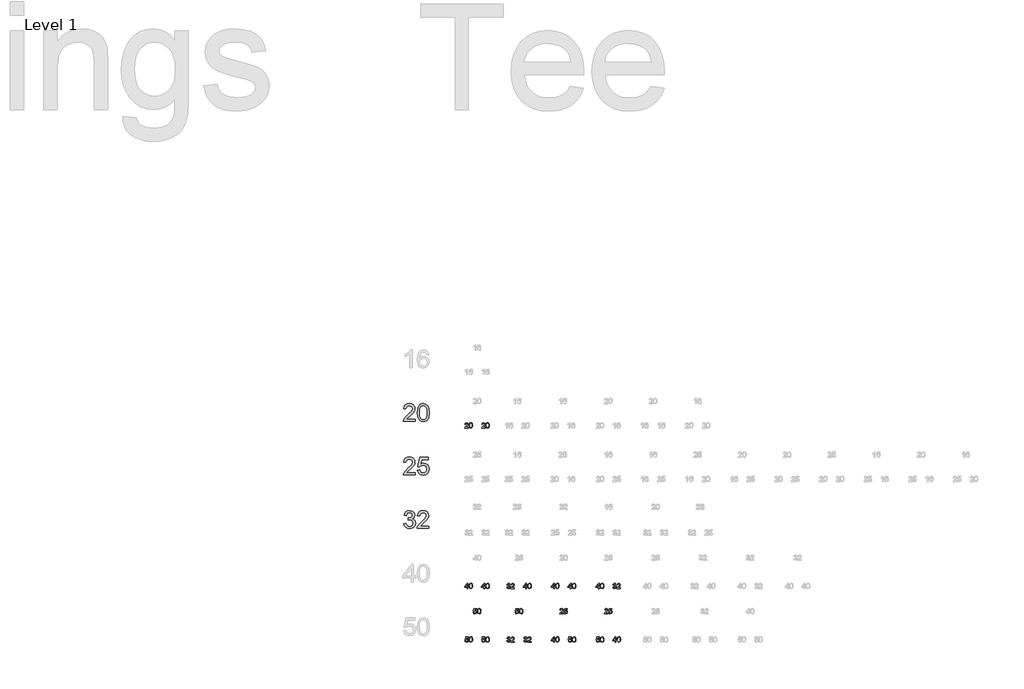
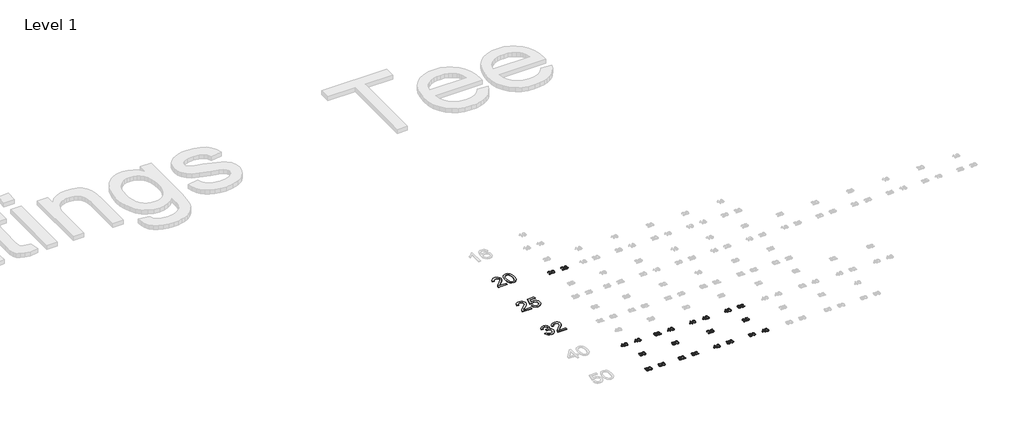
# One storey, part 27 of 58: 25 proxies.
"""IFC4 building model written with IfcOpenShell, lengths in millimetres."""

from ifc_helpers import new_model, si_unit, frame, origin, place, context, project, spatial, polyline, outline, extrude, element, save

model = new_model("IFC4")

# Units and contexts
model_context = context("Model", 3, world=origin())
ifc_project = project(units=[si_unit("LENGTHUNIT", "METRE", prefix="MILLI")], contexts=[model_context])

# Site, building, storey
site = spatial("IfcSite", under=ifc_project)
building = spatial("IfcBuilding", under=site)
storey = spatial("IfcBuildingStorey", under=building, Name="Level 1", Elevation=27.3876384)

# Proxies
placement = place(None, origin())
element("IfcBuildingElementProxy", 1, Name="100mm Arial", ObjectType="100mm Arial", at=placement, inside=storey, context=model_context, shape_type="SweptSolid", body=[
    extrude(outline(polyline([(12768.836301, 29852.8537451), (12768.836301, 29840.2967064), (12702.9118475, 29840.2967064), (12704.2607481, 29848.954196), (12711.8881681, 29862.2837869), (12727.6089921, 29876.8396512), (12749.2895043, 29897.759874), (12754.7096324, 29911.9846445), (12749.5960726, 29923.4993509), (12736.2419562, 29928.1959777), (12722.3237541, 29923.6097155), (12717.0385161, 29910.9300494), (12704.4814773, 29912.4996793), (12707.5257008, 29924.6459165), (12714.1077228, 29933.5180039), (12723.8841869, 29938.9442634), (12736.5117363, 29940.7530165), (12749.2312563, 29938.7419283), (12758.9893263, 29932.7086635), (12765.1973349, 29923.6955547), (12767.2666711, 29912.7449339), (12765.0348537, 29900.83782), (12757.6159001, 29888.5260359), (12739.6264706, 29871.3214213), (12725.1809709, 29859.2426291), (12719.5155882, 29852.8537451), (12768.836301, 29852.8537451)])), frame((0.0, 0.0, 27.3876384), z_axis=(0.0, 0.0, 1.0), x_axis=(1.0, 0.0, 0.0)), (0.0, 0.0, 1.0), 2.0),
    extrude(outline(polyline([(12781.3933398, 29889.715521), (12785.0844224, 29918.6187831), (12796.0473059, 29935.2838375), (12814.3555665, 29940.7530165), (12829.0217954, 29937.5156549), (12839.150813, 29928.183715), (12845.0369249, 29913.3212824), (12847.3177933, 29889.715521), (12843.6634988, 29860.9348863), (12832.7374036, 29844.2330437), (12824.5060439, 29840.1035683), (12814.3555665, 29838.7270765), (12801.3080184, 29841.1183095), (12791.39973, 29848.2920084), (12783.8949373, 29865.2820252), (12781.3933398, 29889.715521)]), holes=[polyline([(12793.9503785, 29889.7400465), (12795.4219065, 29869.987849), (12799.8364905, 29858.555916), (12806.4093154, 29853.1020655), (12814.3555665, 29851.2841153), (12822.3018176, 29853.1081968), (12828.8746426, 29858.5804415), (12833.2892265, 29870.0185059), (12834.7607545, 29889.7400465), (12833.3382775, 29909.0477199), (12829.0708463, 29920.5685577), (12822.5102841, 29926.2891227), (12814.2084137, 29928.1959777), (12806.3480018, 29926.5159833), (12800.0326942, 29921.476), (12795.4709574, 29909.2377923), (12793.9503785, 29889.7400465)])]), frame((0.0, 0.0, 27.3876384), z_axis=(0.0, 0.0, 1.0), x_axis=(1.0, 0.0, 0.0)), (0.0, 0.0, 1.0), 2.0),
])
element("IfcBuildingElementProxy", 2, Name="100mm Arial", ObjectType="100mm Arial", at=placement, inside=storey, context=model_context, shape_type="SweptSolid", body=[
    extrude(outline(polyline([(12768.836301, 29552.8537451), (12768.836301, 29540.2967064), (12702.9118475, 29540.2967064), (12704.2607481, 29548.954196), (12711.8881681, 29562.2837869), (12727.6089921, 29576.8396512), (12749.2895043, 29597.759874), (12754.7096324, 29611.9846445), (12749.5960726, 29623.4993509), (12736.2419562, 29628.1959777), (12722.3237541, 29623.6097155), (12717.0385161, 29610.9300494), (12704.4814773, 29612.4996793), (12707.5257008, 29624.6459165), (12714.1077228, 29633.5180039), (12723.8841869, 29638.9442634), (12736.5117363, 29640.7530165), (12749.2312563, 29638.7419283), (12758.9893263, 29632.7086635), (12765.1973349, 29623.6955547), (12767.2666711, 29612.7449339), (12765.0348537, 29600.83782), (12757.6159001, 29588.5260359), (12739.6264706, 29571.3214213), (12725.1809709, 29559.2426291), (12719.5155882, 29552.8537451), (12768.836301, 29552.8537451)])), frame((0.0, 0.0, 27.3876384), z_axis=(0.0, 0.0, 1.0), x_axis=(1.0, 0.0, 0.0)), (0.0, 0.0, 1.0), 2.0),
    extrude(outline(polyline([(12781.3933398, 29566.9804137), (12793.9503785, 29568.5500436), (12800.2779488, 29555.6128601), (12813.3990733, 29551.2841153), (12822.3999195, 29552.7893658), (12829.1444227, 29557.3051173), (12833.3566716, 29564.3102036), (12834.7607545, 29573.2834586), (12829.500042, 29588.1949421), (12822.8934945, 29592.2968264), (12813.5952771, 29593.6641211), (12802.57108, 29591.4813546), (12795.5200084, 29585.8159719), (12782.9629696, 29587.3856017), (12793.9503785, 29639.1833867), (12842.6089038, 29639.1833867), (12842.6089038, 29626.6263479), (12804.1039216, 29626.6263479), (12798.7328445, 29598.9616219), (12807.7030338, 29604.4062754), (12817.1024188, 29606.2211599), (12828.8347887, 29603.9709484), (12838.5744645, 29597.2203137), (12845.1319611, 29586.9318806), (12847.3177933, 29574.0682735), (12845.3496246, 29561.5112347), (12839.4451186, 29550.7690805), (12828.1388786, 29541.7375775), (12813.3500224, 29538.7270765), (12801.0167785, 29540.6615227), (12791.1912636, 29546.4648611), (12784.4559574, 29555.4626416), (12781.3933398, 29566.9804137)])), frame((0.0, 0.0, 27.3876384), z_axis=(0.0, 0.0, 1.0), x_axis=(1.0, 0.0, 0.0)), (0.0, 0.0, 1.0), 2.0),
])
element("IfcBuildingElementProxy", 3, Name="100mm Arial", ObjectType="100mm Arial", at=placement, inside=storey, context=model_context, shape_type="SweptSolid", body=[
    extrude(outline(polyline([(12704.4814773, 29266.9804137), (12717.0385161, 29268.5500436), (12723.9669603, 29255.3308172), (12736.9286693, 29251.2841153), (12745.537108, 29252.6759355), (12752.1835093, 29256.8513961), (12757.8488921, 29270.6347082), (12752.2325603, 29283.6209427), (12737.9587389, 29288.7590279), (12729.1540964, 29287.3856017), (12730.552048, 29299.9426405), (12732.5631363, 29299.7954877), (12746.8124322, 29303.4007313), (12751.55811, 29307.9747307), (12753.1400025, 29314.486242), (12748.5537403, 29324.3086913), (12736.7324655, 29328.1959777), (12724.764038, 29324.2719031), (12718.6081459, 29312.4996793), (12706.0511071, 29314.0693091), (12709.7483212, 29325.3448923), (12716.3272775, 29333.7632586), (12725.3281237, 29339.005577), (12736.2910072, 29340.7530165), (12751.4354826, 29337.3071885), (12762.0304841, 29327.8894094), (12765.6970413, 29315.222006), (12762.2144251, 29303.6459859), (12751.9137292, 29295.3318528), (12765.5989394, 29286.7479396), (12770.4059308, 29270.413979), (12768.0024351, 29258.1757713), (12760.791948, 29247.9486519), (12749.9087723, 29241.0324703), (12736.4872109, 29238.7270765), (12724.347105, 29240.6952452), (12714.4633421, 29246.5997512), (12707.5900802, 29255.6312542), (12704.4814773, 29266.9804137)])), frame((0.0, 0.0, 27.3876384), z_axis=(0.0, 0.0, 1.0), x_axis=(1.0, 0.0, 0.0)), (0.0, 0.0, 1.0), 2.0),
    extrude(outline(polyline([(12845.7481635, 29252.8537451), (12845.7481635, 29240.2967064), (12779.8237099, 29240.2967064), (12781.1726106, 29248.954196), (12788.8000306, 29262.2837869), (12804.5208545, 29276.8396512), (12826.2013668, 29297.759874), (12831.6214948, 29311.9846445), (12826.5079351, 29323.4993509), (12813.1538187, 29328.1959777), (12799.2356165, 29323.6097155), (12793.9503785, 29310.9300494), (12781.3933398, 29312.4996793), (12784.4375633, 29324.6459165), (12791.0195853, 29333.5180039), (12800.7960493, 29338.9442634), (12813.4235988, 29340.7530165), (12826.1431188, 29338.7419283), (12835.9011887, 29332.7086635), (12842.1091974, 29323.6955547), (12844.1785336, 29312.7449339), (12841.9467162, 29300.83782), (12834.5277626, 29288.5260359), (12816.538333, 29271.3214213), (12802.0928334, 29259.2426291), (12796.4274506, 29252.8537451), (12845.7481635, 29252.8537451)])), frame((0.0, 0.0, 27.3876384), z_axis=(0.0, 0.0, 1.0), x_axis=(1.0, 0.0, 0.0)), (0.0, 0.0, 1.0), 2.0),
])
element("IfcBuildingElementProxy", 4, Name="30mm Arial", ObjectType="30mm Arial", at=placement, inside=storey, context=model_context, shape_type="SweptSolid", body=[
    extrude(outline(polyline([(13066.74674, 29806.8613171), (13066.74674, 29803.0942054), (13046.9694039, 29803.0942054), (13047.3740741, 29805.6914523), (13049.6623001, 29809.6903296), (13054.3785473, 29814.0570889), (13060.882701, 29820.3331557), (13062.5087394, 29824.6005869), (13060.9746715, 29828.0549988), (13056.9684365, 29829.4639869), (13052.7929759, 29828.0881082), (13051.2074045, 29824.2842084), (13047.4402929, 29824.7550973), (13050.3281665, 29831.0605947), (13057.0493706, 29833.2310985), (13063.7926475, 29830.8177926), (13066.275851, 29824.8286737), (13065.6063058, 29821.2565395), (13063.3806197, 29817.5630043), (13057.9837908, 29812.4016199), (13053.6501409, 29808.7779823), (13051.9505261, 29806.8613171), (13066.74674, 29806.8613171)])), frame((0.0, 0.0, 27.3876384), z_axis=(0.0, 0.0, 1.0), x_axis=(1.0, 0.0, 0.0)), (0.0, 0.0, 1.0), 2.0),
    extrude(outline(polyline([(13070.5138516, 29817.9198498), (13071.6211764, 29826.5908285), (13074.9100414, 29831.5903448), (13080.4025196, 29833.2310985), (13084.8023883, 29832.25989), (13087.8410936, 29829.460308), (13089.6069271, 29825.0015783), (13090.2911877, 29817.9198498), (13089.1948993, 29809.2856594), (13085.9170707, 29804.2751066), (13080.4025196, 29802.6233165), (13073.5157687, 29805.492796), (13070.5138516, 29817.9198498)]), holes=[polyline([(13074.2809632, 29817.9272075), (13076.0467968, 29808.5719683), (13080.4025196, 29806.3904281), (13084.7582425, 29808.579326), (13086.524076, 29817.9272075), (13084.8171036, 29827.1757608), (13080.3583738, 29829.4639869), (13076.1056579, 29827.4479935), (13074.2809632, 29817.9272075)])]), frame((0.0, 0.0, 27.3876384), z_axis=(0.0, 0.0, 1.0), x_axis=(1.0, 0.0, 0.0)), (0.0, 0.0, 1.0), 2.0),
])
element("IfcBuildingElementProxy", 5, Name="30mm Arial", ObjectType="30mm Arial", at=placement, inside=storey, context=model_context, shape_type="SweptSolid", body=[
    extrude(outline(polyline([(13160.49674, 29806.8613171), (13160.49674, 29803.0942054), (13140.7194039, 29803.0942054), (13141.1240741, 29805.6914523), (13143.4123001, 29809.6903296), (13148.1285473, 29814.0570889), (13154.632701, 29820.3331557), (13156.2587394, 29824.6005869), (13154.7246715, 29828.0549988), (13150.7184365, 29829.4639869), (13146.5429759, 29828.0881082), (13144.9574045, 29824.2842084), (13141.1902929, 29824.7550973), (13144.0781665, 29831.0605947), (13150.7993706, 29833.2310985), (13157.5426475, 29830.8177926), (13160.025851, 29824.8286737), (13159.3563058, 29821.2565395), (13157.1306197, 29817.5630043), (13151.7337908, 29812.4016199), (13147.4001409, 29808.7779823), (13145.7005261, 29806.8613171), (13160.49674, 29806.8613171)])), frame((0.0, 0.0, 27.3876384), z_axis=(0.0, 0.0, 1.0), x_axis=(1.0, 0.0, 0.0)), (0.0, 0.0, 1.0), 2.0),
    extrude(outline(polyline([(13164.2638516, 29817.9198498), (13165.3711764, 29826.5908285), (13168.6600414, 29831.5903448), (13174.1525196, 29833.2310985), (13178.5523883, 29832.25989), (13181.5910936, 29829.460308), (13183.3569271, 29825.0015783), (13184.0411877, 29817.9198498), (13182.9448993, 29809.2856594), (13179.6670707, 29804.2751066), (13174.1525196, 29802.6233165), (13167.2657687, 29805.492796), (13164.2638516, 29817.9198498)]), holes=[polyline([(13168.0309632, 29817.9272075), (13169.7967968, 29808.5719683), (13174.1525196, 29806.3904281), (13178.5082425, 29808.579326), (13180.274076, 29817.9272075), (13178.5671036, 29827.1757608), (13174.1083738, 29829.4639869), (13169.8556579, 29827.4479935), (13168.0309632, 29817.9272075)])]), frame((0.0, 0.0, 27.3876384), z_axis=(0.0, 0.0, 1.0), x_axis=(1.0, 0.0, 0.0)), (0.0, 0.0, 1.0), 2.0),
])
element("IfcBuildingElementProxy", 6, Name="30mm Arial", ObjectType="30mm Arial", at=placement, inside=storey, context=model_context, shape_type="SweptSolid", body=[
    extrude(outline(polyline([(13059.6834057, 28903.0942054), (13059.6834057, 28910.1575397), (13046.027626, 28910.1575397), (13046.027626, 28913.9246514), (13060.6251836, 28932.7602095), (13063.4505173, 28932.7602095), (13063.4505173, 28913.9246514), (13067.2176289, 28913.9246514), (13067.2176289, 28910.1575397), (13063.4505173, 28910.1575397), (13063.4505173, 28903.0942054), (13059.6834057, 28903.0942054)]), holes=[polyline([(13059.6834057, 28913.9246514), (13059.6834057, 28925.5644377), (13050.6629391, 28913.9246514), (13059.6834057, 28913.9246514)])]), frame((0.0, 0.0, 27.3876384), z_axis=(0.0, 0.0, 1.0), x_axis=(1.0, 0.0, 0.0)), (0.0, 0.0, 1.0), 2.0),
    extrude(outline(polyline([(13070.5138516, 28917.9198498), (13071.6211764, 28926.5908285), (13074.9100414, 28931.5903448), (13080.4025196, 28933.2310985), (13084.8023883, 28932.25989), (13087.8410936, 28929.460308), (13089.6069271, 28925.0015783), (13090.2911877, 28917.9198498), (13089.1948993, 28909.2856594), (13085.9170707, 28904.2751066), (13080.4025196, 28902.6233165), (13073.5157687, 28905.492796), (13070.5138516, 28917.9198498)]), holes=[polyline([(13074.2809632, 28917.9272075), (13076.0467968, 28908.5719683), (13080.4025196, 28906.3904281), (13084.7582425, 28908.579326), (13086.524076, 28917.9272075), (13084.8171036, 28927.1757608), (13080.3583738, 28929.4639869), (13076.1056579, 28927.4479935), (13074.2809632, 28917.9272075)])]), frame((0.0, 0.0, 27.3876384), z_axis=(0.0, 0.0, 1.0), x_axis=(1.0, 0.0, 0.0)), (0.0, 0.0, 1.0), 2.0),
])
element("IfcBuildingElementProxy", 7, Name="30mm Arial", ObjectType="30mm Arial", at=placement, inside=storey, context=model_context, shape_type="SweptSolid", body=[
    extrude(outline(polyline([(13153.4334057, 28903.0942054), (13153.4334057, 28910.1575397), (13139.777626, 28910.1575397), (13139.777626, 28913.9246514), (13154.3751836, 28932.7602095), (13157.2005173, 28932.7602095), (13157.2005173, 28913.9246514), (13160.9676289, 28913.9246514), (13160.9676289, 28910.1575397), (13157.2005173, 28910.1575397), (13157.2005173, 28903.0942054), (13153.4334057, 28903.0942054)]), holes=[polyline([(13153.4334057, 28913.9246514), (13153.4334057, 28925.5644377), (13144.4129391, 28913.9246514), (13153.4334057, 28913.9246514)])]), frame((0.0, 0.0, 27.3876384), z_axis=(0.0, 0.0, 1.0), x_axis=(1.0, 0.0, 0.0)), (0.0, 0.0, 1.0), 2.0),
    extrude(outline(polyline([(13164.2638516, 28917.9198498), (13165.3711764, 28926.5908285), (13168.6600414, 28931.5903448), (13174.1525196, 28933.2310985), (13178.5523883, 28932.25989), (13181.5910936, 28929.460308), (13183.3569271, 28925.0015783), (13184.0411877, 28917.9198498), (13182.9448993, 28909.2856594), (13179.6670707, 28904.2751066), (13174.1525196, 28902.6233165), (13167.2657687, 28905.492796), (13164.2638516, 28917.9198498)]), holes=[polyline([(13168.0309632, 28917.9272075), (13169.7967968, 28908.5719683), (13174.1525196, 28906.3904281), (13178.5082425, 28908.579326), (13180.274076, 28917.9272075), (13178.5671036, 28927.1757608), (13174.1083738, 28929.4639869), (13169.8556579, 28927.4479935), (13168.0309632, 28917.9272075)])]), frame((0.0, 0.0, 27.3876384), z_axis=(0.0, 0.0, 1.0), x_axis=(1.0, 0.0, 0.0)), (0.0, 0.0, 1.0), 2.0),
])
element("IfcBuildingElementProxy", 8, Name="30mm Arial", ObjectType="30mm Arial", at=placement, inside=storey, context=model_context, shape_type="SweptSolid", body=[
    extrude(outline(polyline([(13282.4402929, 28911.0993177), (13286.2074045, 28911.5702066), (13288.2859378, 28907.6044387), (13292.1744505, 28906.3904281), (13296.7509025, 28908.0606124), (13298.4505173, 28912.195606), (13296.7656178, 28916.0914763), (13292.4834713, 28917.6329019), (13289.8420786, 28917.2208741), (13290.2614641, 28920.9879857), (13295.1395793, 28922.0254129), (13297.0378504, 28925.3510661), (13295.6619718, 28928.2978009), (13292.1155893, 28929.4639869), (13288.5250611, 28928.2867645), (13286.6782934, 28924.7550973), (13282.9111818, 28925.2259863), (13285.9940329, 28931.1341711), (13291.9831518, 28933.2310985), (13296.5264945, 28932.1973501), (13299.7049949, 28929.3720164), (13300.8049621, 28925.5717953), (13299.7601772, 28922.0989893), (13296.6699684, 28919.6047494), (13300.7755315, 28917.0295754), (13302.2176289, 28912.1293872), (13299.3334341, 28905.3897891), (13292.0420129, 28902.6233165), (13285.4348523, 28904.9851189), (13282.4402929, 28911.0993177)])), frame((0.0, 0.0, 27.3876384), z_axis=(0.0, 0.0, 1.0), x_axis=(1.0, 0.0, 0.0)), (0.0, 0.0, 1.0), 2.0),
    extrude(outline(polyline([(13324.8202987, 28906.8613171), (13324.8202987, 28903.0942054), (13305.0429626, 28903.0942054), (13305.4476328, 28905.6914523), (13307.7358589, 28909.6903296), (13312.452106, 28914.0570889), (13318.9562597, 28920.3331557), (13320.5822981, 28924.6005869), (13319.0482302, 28928.0549988), (13315.0419953, 28929.4639869), (13310.8665346, 28928.0881082), (13309.2809632, 28924.2842084), (13305.5138516, 28924.7550973), (13308.4017253, 28931.0605947), (13315.1229293, 28933.2310985), (13321.8662063, 28930.8177926), (13324.3494098, 28924.8286737), (13323.6798645, 28921.2565395), (13321.4541785, 28917.5630043), (13316.0573496, 28912.4016199), (13311.7236997, 28908.7779823), (13310.0240849, 28906.8613171), (13324.8202987, 28906.8613171)])), frame((0.0, 0.0, 27.3876384), z_axis=(0.0, 0.0, 1.0), x_axis=(1.0, 0.0, 0.0)), (0.0, 0.0, 1.0), 2.0),
])
element("IfcBuildingElementProxy", 9, Name="30mm Arial", ObjectType="30mm Arial", at=placement, inside=storey, context=model_context, shape_type="SweptSolid", body=[
    extrude(outline(polyline([(13388.4334057, 28903.0942054), (13388.4334057, 28910.1575397), (13374.777626, 28910.1575397), (13374.777626, 28913.9246514), (13389.3751836, 28932.7602095), (13392.2005173, 28932.7602095), (13392.2005173, 28913.9246514), (13395.9676289, 28913.9246514), (13395.9676289, 28910.1575397), (13392.2005173, 28910.1575397), (13392.2005173, 28903.0942054), (13388.4334057, 28903.0942054)]), holes=[polyline([(13388.4334057, 28913.9246514), (13388.4334057, 28925.5644377), (13379.4129391, 28913.9246514), (13388.4334057, 28913.9246514)])]), frame((0.0, 0.0, 27.3876384), z_axis=(0.0, 0.0, 1.0), x_axis=(1.0, 0.0, 0.0)), (0.0, 0.0, 1.0), 2.0),
    extrude(outline(polyline([(13399.2638516, 28917.9198498), (13400.3711764, 28926.5908285), (13403.6600414, 28931.5903448), (13409.1525196, 28933.2310985), (13413.5523883, 28932.25989), (13416.5910936, 28929.460308), (13418.3569271, 28925.0015783), (13419.0411877, 28917.9198498), (13417.9448993, 28909.2856594), (13414.6670707, 28904.2751066), (13409.1525196, 28902.6233165), (13402.2657687, 28905.492796), (13399.2638516, 28917.9198498)]), holes=[polyline([(13403.0309632, 28917.9272075), (13404.7967968, 28908.5719683), (13409.1525196, 28906.3904281), (13413.5082425, 28908.579326), (13415.274076, 28917.9272075), (13413.5671036, 28927.1757608), (13409.1083738, 28929.4639869), (13404.8556579, 28927.4479935), (13403.0309632, 28917.9272075)])]), frame((0.0, 0.0, 27.3876384), z_axis=(0.0, 0.0, 1.0), x_axis=(1.0, 0.0, 0.0)), (0.0, 0.0, 1.0), 2.0),
])
element("IfcBuildingElementProxy", 10, Name="30mm Arial", ObjectType="30mm Arial", at=placement, inside=storey, context=model_context, shape_type="SweptSolid", body=[
    extrude(outline(polyline([(13544.4033064, 28903.0942054), (13544.4033064, 28910.1575397), (13530.7475267, 28910.1575397), (13530.7475267, 28913.9246514), (13545.3450843, 28932.7602095), (13548.170418, 28932.7602095), (13548.170418, 28913.9246514), (13551.9375296, 28913.9246514), (13551.9375296, 28910.1575397), (13548.170418, 28910.1575397), (13548.170418, 28903.0942054), (13544.4033064, 28903.0942054)]), holes=[polyline([(13544.4033064, 28913.9246514), (13544.4033064, 28925.5644377), (13535.3828398, 28913.9246514), (13544.4033064, 28913.9246514)])]), frame((0.0, 0.0, 27.3876384), z_axis=(0.0, 0.0, 1.0), x_axis=(1.0, 0.0, 0.0)), (0.0, 0.0, 1.0), 2.0),
    extrude(outline(polyline([(13555.2337523, 28917.9198498), (13556.3410771, 28926.5908285), (13559.6299421, 28931.5903448), (13565.1224203, 28933.2310985), (13569.522289, 28932.25989), (13572.5609943, 28929.460308), (13574.3268278, 28925.0015783), (13575.0110884, 28917.9198498), (13573.9148, 28909.2856594), (13570.6369714, 28904.2751066), (13565.1224203, 28902.6233165), (13558.2356694, 28905.492796), (13555.2337523, 28917.9198498)]), holes=[polyline([(13559.0008639, 28917.9272075), (13560.7666975, 28908.5719683), (13565.1224203, 28906.3904281), (13569.4781431, 28908.579326), (13571.2439767, 28917.9272075), (13569.5370043, 28927.1757608), (13565.0782745, 28929.4639869), (13560.8255586, 28927.4479935), (13559.0008639, 28917.9272075)])]), frame((0.0, 0.0, 27.3876384), z_axis=(0.0, 0.0, 1.0), x_axis=(1.0, 0.0, 0.0)), (0.0, 0.0, 1.0), 2.0),
])
element("IfcBuildingElementProxy", 11, Name="30mm Arial", ObjectType="30mm Arial", at=placement, inside=storey, context=model_context, shape_type="SweptSolid", body=[
    extrude(outline(polyline([(13638.1533064, 28903.0942054), (13638.1533064, 28910.1575397), (13624.4975267, 28910.1575397), (13624.4975267, 28913.9246514), (13639.0950843, 28932.7602095), (13641.920418, 28932.7602095), (13641.920418, 28913.9246514), (13645.6875296, 28913.9246514), (13645.6875296, 28910.1575397), (13641.920418, 28910.1575397), (13641.920418, 28903.0942054), (13638.1533064, 28903.0942054)]), holes=[polyline([(13638.1533064, 28913.9246514), (13638.1533064, 28925.5644377), (13629.1328398, 28913.9246514), (13638.1533064, 28913.9246514)])]), frame((0.0, 0.0, 27.3876384), z_axis=(0.0, 0.0, 1.0), x_axis=(1.0, 0.0, 0.0)), (0.0, 0.0, 1.0), 2.0),
    extrude(outline(polyline([(13648.9837523, 28917.9198498), (13650.0910771, 28926.5908285), (13653.3799421, 28931.5903448), (13658.8724203, 28933.2310985), (13663.272289, 28932.25989), (13666.3109943, 28929.460308), (13668.0768278, 28925.0015783), (13668.7610884, 28917.9198498), (13667.6648, 28909.2856594), (13664.3869714, 28904.2751066), (13658.8724203, 28902.6233165), (13651.9856694, 28905.492796), (13648.9837523, 28917.9198498)]), holes=[polyline([(13652.7508639, 28917.9272075), (13654.5166975, 28908.5719683), (13658.8724203, 28906.3904281), (13663.2281431, 28908.579326), (13664.9939767, 28917.9272075), (13663.2870043, 28927.1757608), (13658.8282745, 28929.4639869), (13654.5755586, 28927.4479935), (13652.7508639, 28917.9272075)])]), frame((0.0, 0.0, 27.3876384), z_axis=(0.0, 0.0, 1.0), x_axis=(1.0, 0.0, 0.0)), (0.0, 0.0, 1.0), 2.0),
])
element("IfcBuildingElementProxy", 12, Name="30mm Arial", ObjectType="30mm Arial", at=placement, inside=storey, context=model_context, shape_type="SweptSolid", body=[
    extrude(outline(polyline([(13794.963505, 28903.0942054), (13794.963505, 28910.1575397), (13781.3077253, 28910.1575397), (13781.3077253, 28913.9246514), (13795.9052829, 28932.7602095), (13798.7306166, 28932.7602095), (13798.7306166, 28913.9246514), (13802.4977282, 28913.9246514), (13802.4977282, 28910.1575397), (13798.7306166, 28910.1575397), (13798.7306166, 28903.0942054), (13794.963505, 28903.0942054)]), holes=[polyline([(13794.963505, 28913.9246514), (13794.963505, 28925.5644377), (13785.9430385, 28913.9246514), (13794.963505, 28913.9246514)])]), frame((0.0, 0.0, 27.3876384), z_axis=(0.0, 0.0, 1.0), x_axis=(1.0, 0.0, 0.0)), (0.0, 0.0, 1.0), 2.0),
    extrude(outline(polyline([(13805.7939509, 28917.9198498), (13806.9012757, 28926.5908285), (13810.1901408, 28931.5903448), (13815.6826189, 28933.2310985), (13820.0824876, 28932.25989), (13823.1211929, 28929.460308), (13824.8870265, 28925.0015783), (13825.571287, 28917.9198498), (13824.4749986, 28909.2856594), (13821.19717, 28904.2751066), (13815.6826189, 28902.6233165), (13808.795868, 28905.492796), (13805.7939509, 28917.9198498)]), holes=[polyline([(13809.5610625, 28917.9272075), (13811.3268961, 28908.5719683), (13815.6826189, 28906.3904281), (13820.0383418, 28908.579326), (13821.8041753, 28917.9272075), (13820.0972029, 28927.1757608), (13815.6384731, 28929.4639869), (13811.3857572, 28927.4479935), (13809.5610625, 28917.9272075)])]), frame((0.0, 0.0, 27.3876384), z_axis=(0.0, 0.0, 1.0), x_axis=(1.0, 0.0, 0.0)), (0.0, 0.0, 1.0), 2.0),
])
element("IfcBuildingElementProxy", 13, Name="30mm Arial", ObjectType="30mm Arial", at=placement, inside=storey, context=model_context, shape_type="SweptSolid", body=[
    extrude(outline(polyline([(13876.4703922, 28911.0993177), (13880.2375038, 28911.5702066), (13882.3160371, 28907.6044387), (13886.2045498, 28906.3904281), (13890.7810018, 28908.0606124), (13892.4806166, 28912.195606), (13890.7957171, 28916.0914763), (13886.5135706, 28917.6329019), (13883.8721779, 28917.2208741), (13884.2915634, 28920.9879857), (13889.1696786, 28922.0254129), (13891.0679497, 28925.3510661), (13889.6920711, 28928.2978009), (13886.1456886, 28929.4639869), (13882.5551604, 28928.2867645), (13880.7083928, 28924.7550973), (13876.9412811, 28925.2259863), (13880.0241322, 28931.1341711), (13886.0132511, 28933.2310985), (13890.5565938, 28932.1973501), (13893.7350942, 28929.3720164), (13894.8350614, 28925.5717953), (13893.7902765, 28922.0989893), (13890.7000677, 28919.6047494), (13894.8056308, 28917.0295754), (13896.2477282, 28912.1293872), (13893.3635334, 28905.3897891), (13886.0721122, 28902.6233165), (13879.4649516, 28904.9851189), (13876.4703922, 28911.0993177)])), frame((0.0, 0.0, 27.3876384), z_axis=(0.0, 0.0, 1.0), x_axis=(1.0, 0.0, 0.0)), (0.0, 0.0, 1.0), 2.0),
    extrude(outline(polyline([(13918.850398, 28906.8613171), (13918.850398, 28903.0942054), (13899.073062, 28903.0942054), (13899.4777322, 28905.6914523), (13901.7659582, 28909.6903296), (13906.4822053, 28914.0570889), (13912.986359, 28920.3331557), (13914.6123974, 28924.6005869), (13913.0783295, 28928.0549988), (13909.0720946, 28929.4639869), (13904.8966339, 28928.0881082), (13903.3110625, 28924.2842084), (13899.5439509, 28924.7550973), (13902.4318246, 28931.0605947), (13909.1530286, 28933.2310985), (13915.8963056, 28930.8177926), (13918.3795091, 28924.8286737), (13917.7099638, 28921.2565395), (13915.4842778, 28917.5630043), (13910.0874489, 28912.4016199), (13905.753799, 28908.7779823), (13904.0541842, 28906.8613171), (13918.850398, 28906.8613171)])), frame((0.0, 0.0, 27.3876384), z_axis=(0.0, 0.0, 1.0), x_axis=(1.0, 0.0, 0.0)), (0.0, 0.0, 1.0), 2.0),
])
element("IfcBuildingElementProxy", 14, Name="30mm Arial", ObjectType="30mm Arial", at=placement, inside=storey, context=model_context, shape_type="SweptSolid", body=[
    extrude(outline(polyline([(13047.4402929, 28611.0993177), (13051.2074045, 28611.5702066), (13053.1056756, 28607.6890516), (13057.0420129, 28606.3904281), (13061.7656178, 28608.1967287), (13063.4505173, 28612.9902311), (13061.8723035, 28617.4636762), (13057.1008741, 28619.1044299), (13053.7936149, 28618.4495999), (13051.6782934, 28616.7499851), (13047.9111818, 28617.2208741), (13051.2074045, 28632.7602095), (13065.8049621, 28632.7602095), (13065.8049621, 28628.9930979), (13054.2534674, 28628.9930979), (13052.6421443, 28620.6936801), (13058.1530166, 28622.8715415), (13064.5946303, 28620.1712877), (13067.2176289, 28613.2256756), (13064.8558265, 28606.2359177), (13057.0272977, 28602.6233165), (13050.37967, 28604.9446519), (13047.4402929, 28611.0993177)])), frame((0.0, 0.0, 27.3876384), z_axis=(0.0, 0.0, 1.0), x_axis=(1.0, 0.0, 0.0)), (0.0, 0.0, 1.0), 2.0),
    extrude(outline(polyline([(13070.5138516, 28617.9198498), (13071.6211764, 28626.5908285), (13074.9100414, 28631.5903448), (13080.4025196, 28633.2310985), (13084.8023883, 28632.25989), (13087.8410936, 28629.460308), (13089.6069271, 28625.0015783), (13090.2911877, 28617.9198498), (13089.1948993, 28609.2856594), (13085.9170707, 28604.2751066), (13080.4025196, 28602.6233165), (13073.5157687, 28605.492796), (13070.5138516, 28617.9198498)]), holes=[polyline([(13074.2809632, 28617.9272075), (13076.0467968, 28608.5719683), (13080.4025196, 28606.3904281), (13084.7582425, 28608.579326), (13086.524076, 28617.9272075), (13084.8171036, 28627.1757608), (13080.3583738, 28629.4639869), (13076.1056579, 28627.4479935), (13074.2809632, 28617.9272075)])]), frame((0.0, 0.0, 27.3876384), z_axis=(0.0, 0.0, 1.0), x_axis=(1.0, 0.0, 0.0)), (0.0, 0.0, 1.0), 2.0),
])
element("IfcBuildingElementProxy", 15, Name="30mm Arial", ObjectType="30mm Arial", at=placement, inside=storey, context=model_context, shape_type="SweptSolid", body=[
    extrude(outline(polyline([(13141.1902929, 28611.0993177), (13144.9574045, 28611.5702066), (13146.8556756, 28607.6890516), (13150.7920129, 28606.3904281), (13155.5156178, 28608.1967287), (13157.2005173, 28612.9902311), (13155.6223035, 28617.4636762), (13150.8508741, 28619.1044299), (13147.5436149, 28618.4495999), (13145.4282934, 28616.7499851), (13141.6611818, 28617.2208741), (13144.9574045, 28632.7602095), (13159.5549621, 28632.7602095), (13159.5549621, 28628.9930979), (13148.0034674, 28628.9930979), (13146.3921443, 28620.6936801), (13151.9030166, 28622.8715415), (13158.3446303, 28620.1712877), (13160.9676289, 28613.2256756), (13158.6058265, 28606.2359177), (13150.7772977, 28602.6233165), (13144.12967, 28604.9446519), (13141.1902929, 28611.0993177)])), frame((0.0, 0.0, 27.3876384), z_axis=(0.0, 0.0, 1.0), x_axis=(1.0, 0.0, 0.0)), (0.0, 0.0, 1.0), 2.0),
    extrude(outline(polyline([(13164.2638516, 28617.9198498), (13165.3711764, 28626.5908285), (13168.6600414, 28631.5903448), (13174.1525196, 28633.2310985), (13178.5523883, 28632.25989), (13181.5910936, 28629.460308), (13183.3569271, 28625.0015783), (13184.0411877, 28617.9198498), (13182.9448993, 28609.2856594), (13179.6670707, 28604.2751066), (13174.1525196, 28602.6233165), (13167.2657687, 28605.492796), (13164.2638516, 28617.9198498)]), holes=[polyline([(13168.0309632, 28617.9272075), (13169.7967968, 28608.5719683), (13174.1525196, 28606.3904281), (13178.5082425, 28608.579326), (13180.274076, 28617.9272075), (13178.5671036, 28627.1757608), (13174.1083738, 28629.4639869), (13169.8556579, 28627.4479935), (13168.0309632, 28617.9272075)])]), frame((0.0, 0.0, 27.3876384), z_axis=(0.0, 0.0, 1.0), x_axis=(1.0, 0.0, 0.0)), (0.0, 0.0, 1.0), 2.0),
])
element("IfcBuildingElementProxy", 16, Name="30mm Arial", ObjectType="30mm Arial", at=placement, inside=storey, context=model_context, shape_type="SweptSolid", body=[
    extrude(outline(polyline([(13094.3684777, 28769.9179582), (13098.1355893, 28770.3888472), (13100.0338604, 28766.5076921), (13103.9701977, 28765.2090687), (13108.6938026, 28767.0153693), (13110.3787021, 28771.8088717), (13108.8004883, 28776.2823167), (13104.0290589, 28777.9230704), (13100.7217997, 28777.2682405), (13098.6064783, 28775.5686257), (13094.8393666, 28776.0395146), (13098.1355893, 28791.5788501), (13112.7331469, 28791.5788501), (13112.7331469, 28787.8117385), (13101.1816522, 28787.8117385), (13099.5703291, 28779.5123207), (13105.0812014, 28781.6901821), (13111.5228151, 28778.9899282), (13114.1458137, 28772.0443161), (13111.7840113, 28765.0545582), (13103.9554825, 28761.441957), (13097.3078548, 28763.7632924), (13094.3684777, 28769.9179582)])), frame((0.0, 0.0, 27.3876384), z_axis=(0.0, 0.0, 1.0), x_axis=(1.0, 0.0, 0.0)), (0.0, 0.0, 1.0), 2.0),
    extrude(outline(polyline([(13117.4420364, 28776.7384904), (13118.5493612, 28785.409469), (13121.8382262, 28790.4089853), (13127.3307044, 28792.049739), (13131.7305731, 28791.0785306), (13134.7692784, 28788.2789486), (13136.535112, 28783.8202188), (13137.2193725, 28776.7384904), (13136.1230841, 28768.1043), (13132.8452555, 28763.0937472), (13127.3307044, 28761.441957), (13120.4439535, 28764.3114366), (13117.4420364, 28776.7384904)]), holes=[polyline([(13121.209148, 28776.745848), (13122.9749816, 28767.3906089), (13127.3307044, 28765.2090687), (13131.6864273, 28767.3979666), (13133.4522608, 28776.745848), (13131.7452884, 28785.9944014), (13127.2865586, 28788.2826274), (13123.0338427, 28786.2666341), (13121.209148, 28776.745848)])]), frame((0.0, 0.0, 27.3876384), z_axis=(0.0, 0.0, 1.0), x_axis=(1.0, 0.0, 0.0)), (0.0, 0.0, 1.0), 2.0),
])
element("IfcBuildingElementProxy", 17, Name="30mm Arial", ObjectType="30mm Arial", at=placement, inside=storey, context=model_context, shape_type="SweptSolid", body=[
    extrude(outline(polyline([(13282.4402929, 28611.0993177), (13286.2074045, 28611.5702066), (13288.2859378, 28607.6044387), (13292.1744505, 28606.3904281), (13296.7509025, 28608.0606124), (13298.4505173, 28612.195606), (13296.7656178, 28616.0914763), (13292.4834713, 28617.6329019), (13289.8420786, 28617.2208741), (13290.2614641, 28620.9879857), (13295.1395793, 28622.0254129), (13297.0378504, 28625.3510661), (13295.6619718, 28628.2978009), (13292.1155893, 28629.4639869), (13288.5250611, 28628.2867645), (13286.6782934, 28624.7550973), (13282.9111818, 28625.2259863), (13285.9940329, 28631.1341711), (13291.9831518, 28633.2310985), (13296.5264945, 28632.1973501), (13299.7049949, 28629.3720164), (13300.8049621, 28625.5717953), (13299.7601772, 28622.0989893), (13296.6699684, 28619.6047494), (13300.7755315, 28617.0295754), (13302.2176289, 28612.1293872), (13299.3334341, 28605.3897891), (13292.0420129, 28602.6233165), (13285.4348523, 28604.9851189), (13282.4402929, 28611.0993177)])), frame((0.0, 0.0, 27.3876384), z_axis=(0.0, 0.0, 1.0), x_axis=(1.0, 0.0, 0.0)), (0.0, 0.0, 1.0), 2.0),
    extrude(outline(polyline([(13324.8202987, 28606.8613171), (13324.8202987, 28603.0942054), (13305.0429626, 28603.0942054), (13305.4476328, 28605.6914523), (13307.7358589, 28609.6903296), (13312.452106, 28614.0570889), (13318.9562597, 28620.3331557), (13320.5822981, 28624.6005869), (13319.0482302, 28628.0549988), (13315.0419953, 28629.4639869), (13310.8665346, 28628.0881082), (13309.2809632, 28624.2842084), (13305.5138516, 28624.7550973), (13308.4017253, 28631.0605947), (13315.1229293, 28633.2310985), (13321.8662063, 28630.8177926), (13324.3494098, 28624.8286737), (13323.6798645, 28621.2565395), (13321.4541785, 28617.5630043), (13316.0573496, 28612.4016199), (13311.7236997, 28608.7779823), (13310.0240849, 28606.8613171), (13324.8202987, 28606.8613171)])), frame((0.0, 0.0, 27.3876384), z_axis=(0.0, 0.0, 1.0), x_axis=(1.0, 0.0, 0.0)), (0.0, 0.0, 1.0), 2.0),
])
element("IfcBuildingElementProxy", 18, Name="30mm Arial", ObjectType="30mm Arial", at=placement, inside=storey, context=model_context, shape_type="SweptSolid", body=[
    extrude(outline(polyline([(13376.1902929, 28611.0993177), (13379.9574045, 28611.5702066), (13382.0359378, 28607.6044387), (13385.9244505, 28606.3904281), (13390.5009025, 28608.0606124), (13392.2005173, 28612.195606), (13390.5156178, 28616.0914763), (13386.2334713, 28617.6329019), (13383.5920786, 28617.2208741), (13384.0114641, 28620.9879857), (13388.8895793, 28622.0254129), (13390.7878504, 28625.3510661), (13389.4119718, 28628.2978009), (13385.8655893, 28629.4639869), (13382.2750611, 28628.2867645), (13380.4282934, 28624.7550973), (13376.6611818, 28625.2259863), (13379.7440329, 28631.1341711), (13385.7331518, 28633.2310985), (13390.2764945, 28632.1973501), (13393.4549949, 28629.3720164), (13394.5549621, 28625.5717953), (13393.5101772, 28622.0989893), (13390.4199684, 28619.6047494), (13394.5255315, 28617.0295754), (13395.9676289, 28612.1293872), (13393.0834341, 28605.3897891), (13385.7920129, 28602.6233165), (13379.1848523, 28604.9851189), (13376.1902929, 28611.0993177)])), frame((0.0, 0.0, 27.3876384), z_axis=(0.0, 0.0, 1.0), x_axis=(1.0, 0.0, 0.0)), (0.0, 0.0, 1.0), 2.0),
    extrude(outline(polyline([(13418.5702987, 28606.8613171), (13418.5702987, 28603.0942054), (13398.7929626, 28603.0942054), (13399.1976328, 28605.6914523), (13401.4858589, 28609.6903296), (13406.202106, 28614.0570889), (13412.7062597, 28620.3331557), (13414.3322981, 28624.6005869), (13412.7982302, 28628.0549988), (13408.7919953, 28629.4639869), (13404.6165346, 28628.0881082), (13403.0309632, 28624.2842084), (13399.2638516, 28624.7550973), (13402.1517253, 28631.0605947), (13408.8729293, 28633.2310985), (13415.6162063, 28630.8177926), (13418.0994098, 28624.8286737), (13417.4298645, 28621.2565395), (13415.2041785, 28617.5630043), (13409.8073496, 28612.4016199), (13405.4736997, 28608.7779823), (13403.7740849, 28606.8613171), (13418.5702987, 28606.8613171)])), frame((0.0, 0.0, 27.3876384), z_axis=(0.0, 0.0, 1.0), x_axis=(1.0, 0.0, 0.0)), (0.0, 0.0, 1.0), 2.0),
])
element("IfcBuildingElementProxy", 19, Name="30mm Arial", ObjectType="30mm Arial", at=placement, inside=storey, context=model_context, shape_type="SweptSolid", body=[
    extrude(outline(polyline([(13329.3684777, 28769.9179582), (13333.1355893, 28770.3888472), (13335.0338604, 28766.5076921), (13338.9701977, 28765.2090687), (13343.6938026, 28767.0153693), (13345.3787021, 28771.8088717), (13343.8004883, 28776.2823167), (13339.0290589, 28777.9230704), (13335.7217997, 28777.2682405), (13333.6064783, 28775.5686257), (13329.8393666, 28776.0395146), (13333.1355893, 28791.5788501), (13347.7331469, 28791.5788501), (13347.7331469, 28787.8117385), (13336.1816522, 28787.8117385), (13334.5703291, 28779.5123207), (13340.0812014, 28781.6901821), (13346.5228151, 28778.9899282), (13349.1458137, 28772.0443161), (13346.7840113, 28765.0545582), (13338.9554825, 28761.441957), (13332.3078548, 28763.7632924), (13329.3684777, 28769.9179582)])), frame((0.0, 0.0, 27.3876384), z_axis=(0.0, 0.0, 1.0), x_axis=(1.0, 0.0, 0.0)), (0.0, 0.0, 1.0), 2.0),
    extrude(outline(polyline([(13352.4420364, 28776.7384904), (13353.5493612, 28785.409469), (13356.8382262, 28790.4089853), (13362.3307044, 28792.049739), (13366.7305731, 28791.0785306), (13369.7692784, 28788.2789486), (13371.535112, 28783.8202188), (13372.2193725, 28776.7384904), (13371.1230841, 28768.1043), (13367.8452555, 28763.0937472), (13362.3307044, 28761.441957), (13355.4439535, 28764.3114366), (13352.4420364, 28776.7384904)]), holes=[polyline([(13356.209148, 28776.745848), (13357.9749816, 28767.3906089), (13362.3307044, 28765.2090687), (13366.6864273, 28767.3979666), (13368.4522608, 28776.745848), (13366.7452884, 28785.9944014), (13362.2865586, 28788.2826274), (13358.0338427, 28786.2666341), (13356.209148, 28776.745848)])]), frame((0.0, 0.0, 27.3876384), z_axis=(0.0, 0.0, 1.0), x_axis=(1.0, 0.0, 0.0)), (0.0, 0.0, 1.0), 2.0),
])
element("IfcBuildingElementProxy", 20, Name="30mm Arial", ObjectType="30mm Arial", at=placement, inside=storey, context=model_context, shape_type="SweptSolid", body=[
    extrude(outline(polyline([(13544.4033064, 28603.0942054), (13544.4033064, 28610.1575397), (13530.7475267, 28610.1575397), (13530.7475267, 28613.9246514), (13545.3450843, 28632.7602095), (13548.170418, 28632.7602095), (13548.170418, 28613.9246514), (13551.9375296, 28613.9246514), (13551.9375296, 28610.1575397), (13548.170418, 28610.1575397), (13548.170418, 28603.0942054), (13544.4033064, 28603.0942054)]), holes=[polyline([(13544.4033064, 28613.9246514), (13544.4033064, 28625.5644377), (13535.3828398, 28613.9246514), (13544.4033064, 28613.9246514)])]), frame((0.0, 0.0, 27.3876384), z_axis=(0.0, 0.0, 1.0), x_axis=(1.0, 0.0, 0.0)), (0.0, 0.0, 1.0), 2.0),
    extrude(outline(polyline([(13555.2337523, 28617.9198498), (13556.3410771, 28626.5908285), (13559.6299421, 28631.5903448), (13565.1224203, 28633.2310985), (13569.522289, 28632.25989), (13572.5609943, 28629.460308), (13574.3268278, 28625.0015783), (13575.0110884, 28617.9198498), (13573.9148, 28609.2856594), (13570.6369714, 28604.2751066), (13565.1224203, 28602.6233165), (13558.2356694, 28605.492796), (13555.2337523, 28617.9198498)]), holes=[polyline([(13559.0008639, 28617.9272075), (13560.7666975, 28608.5719683), (13565.1224203, 28606.3904281), (13569.4781431, 28608.579326), (13571.2439767, 28617.9272075), (13569.5370043, 28627.1757608), (13565.0782745, 28629.4639869), (13560.8255586, 28627.4479935), (13559.0008639, 28617.9272075)])]), frame((0.0, 0.0, 27.3876384), z_axis=(0.0, 0.0, 1.0), x_axis=(1.0, 0.0, 0.0)), (0.0, 0.0, 1.0), 2.0),
])
element("IfcBuildingElementProxy", 21, Name="30mm Arial", ObjectType="30mm Arial", at=placement, inside=storey, context=model_context, shape_type="SweptSolid", body=[
    extrude(outline(polyline([(13625.9101936, 28611.0993177), (13629.6773052, 28611.5702066), (13631.5755763, 28607.6890516), (13635.5119136, 28606.3904281), (13640.2355184, 28608.1967287), (13641.920418, 28612.9902311), (13640.3422042, 28617.4636762), (13635.5707747, 28619.1044299), (13632.2635156, 28618.4495999), (13630.1481941, 28616.7499851), (13626.3810825, 28617.2208741), (13629.6773052, 28632.7602095), (13644.2748628, 28632.7602095), (13644.2748628, 28628.9930979), (13632.7233681, 28628.9930979), (13631.112045, 28620.6936801), (13636.6229173, 28622.8715415), (13643.064531, 28620.1712877), (13645.6875296, 28613.2256756), (13643.3257272, 28606.2359177), (13635.4971983, 28602.6233165), (13628.8495707, 28604.9446519), (13625.9101936, 28611.0993177)])), frame((0.0, 0.0, 27.3876384), z_axis=(0.0, 0.0, 1.0), x_axis=(1.0, 0.0, 0.0)), (0.0, 0.0, 1.0), 2.0),
    extrude(outline(polyline([(13648.9837523, 28617.9198498), (13650.0910771, 28626.5908285), (13653.3799421, 28631.5903448), (13658.8724203, 28633.2310985), (13663.272289, 28632.25989), (13666.3109943, 28629.460308), (13668.0768278, 28625.0015783), (13668.7610884, 28617.9198498), (13667.6648, 28609.2856594), (13664.3869714, 28604.2751066), (13658.8724203, 28602.6233165), (13651.9856694, 28605.492796), (13648.9837523, 28617.9198498)]), holes=[polyline([(13652.7508639, 28617.9272075), (13654.5166975, 28608.5719683), (13658.8724203, 28606.3904281), (13663.2281431, 28608.579326), (13664.9939767, 28617.9272075), (13663.2870043, 28627.1757608), (13658.8282745, 28629.4639869), (13654.5755586, 28627.4479935), (13652.7508639, 28617.9272075)])]), frame((0.0, 0.0, 27.3876384), z_axis=(0.0, 0.0, 1.0), x_axis=(1.0, 0.0, 0.0)), (0.0, 0.0, 1.0), 2.0),
])
element("IfcBuildingElementProxy", 22, Name="30mm Arial", ObjectType="30mm Arial", at=placement, inside=storey, context=model_context, shape_type="SweptSolid", body=[
    extrude(outline(polyline([(13598.3948255, 28765.6799576), (13598.3948255, 28761.912846), (13578.6174894, 28761.912846), (13579.0221596, 28764.5100929), (13581.3103856, 28768.5089702), (13586.0266328, 28772.8757295), (13592.5307865, 28779.1517963), (13594.1568249, 28783.4192274), (13592.622757, 28786.8736394), (13588.616522, 28788.2826274), (13584.4410614, 28786.9067488), (13582.85549, 28783.1028489), (13579.0883784, 28783.5737379), (13581.976252, 28789.8792353), (13588.6974561, 28792.049739), (13595.440733, 28789.6364332), (13597.9239365, 28783.6473143), (13597.2543913, 28780.0751801), (13595.0287052, 28776.3816449), (13589.6318763, 28771.2202605), (13585.2982264, 28767.5966228), (13583.5986116, 28765.6799576), (13598.3948255, 28765.6799576)])), frame((0.0, 0.0, 27.3876384), z_axis=(0.0, 0.0, 1.0), x_axis=(1.0, 0.0, 0.0)), (0.0, 0.0, 1.0), 2.0),
    extrude(outline(polyline([(13602.1619371, 28769.9179582), (13605.9290487, 28770.3888472), (13607.8273198, 28766.5076921), (13611.7636572, 28765.2090687), (13616.487262, 28767.0153693), (13618.1721615, 28771.8088717), (13616.5939478, 28776.2823167), (13611.8225183, 28777.9230704), (13608.5152592, 28777.2682405), (13606.3999377, 28775.5686257), (13602.632826, 28776.0395146), (13605.9290487, 28791.5788501), (13620.5266063, 28791.5788501), (13620.5266063, 28787.8117385), (13608.9751116, 28787.8117385), (13607.3637885, 28779.5123207), (13612.8746608, 28781.6901821), (13619.3162745, 28778.9899282), (13621.9392732, 28772.0443161), (13619.5774707, 28765.0545582), (13611.7489419, 28761.441957), (13605.1013142, 28763.7632924), (13602.1619371, 28769.9179582)])), frame((0.0, 0.0, 27.3876384), z_axis=(0.0, 0.0, 1.0), x_axis=(1.0, 0.0, 0.0)), (0.0, 0.0, 1.0), 2.0),
])
element("IfcBuildingElementProxy", 23, Name="30mm Arial", ObjectType="30mm Arial", at=placement, inside=storey, context=model_context, shape_type="SweptSolid", body=[
    extrude(outline(polyline([(13782.7203922, 28611.0993177), (13786.4875038, 28611.5702066), (13788.3857749, 28607.6890516), (13792.3221122, 28606.3904281), (13797.0457171, 28608.1967287), (13798.7306166, 28612.9902311), (13797.1524028, 28617.4636762), (13792.3809734, 28619.1044299), (13789.0737142, 28618.4495999), (13786.9583928, 28616.7499851), (13783.1912811, 28617.2208741), (13786.4875038, 28632.7602095), (13801.0850614, 28632.7602095), (13801.0850614, 28628.9930979), (13789.5335667, 28628.9930979), (13787.9222436, 28620.6936801), (13793.4331159, 28622.8715415), (13799.8747296, 28620.1712877), (13802.4977282, 28613.2256756), (13800.1359258, 28606.2359177), (13792.307397, 28602.6233165), (13785.6597693, 28604.9446519), (13782.7203922, 28611.0993177)])), frame((0.0, 0.0, 27.3876384), z_axis=(0.0, 0.0, 1.0), x_axis=(1.0, 0.0, 0.0)), (0.0, 0.0, 1.0), 2.0),
    extrude(outline(polyline([(13805.7939509, 28617.9198498), (13806.9012757, 28626.5908285), (13810.1901408, 28631.5903448), (13815.6826189, 28633.2310985), (13820.0824876, 28632.25989), (13823.1211929, 28629.460308), (13824.8870265, 28625.0015783), (13825.571287, 28617.9198498), (13824.4749986, 28609.2856594), (13821.19717, 28604.2751066), (13815.6826189, 28602.6233165), (13808.795868, 28605.492796), (13805.7939509, 28617.9198498)]), holes=[polyline([(13809.5610625, 28617.9272075), (13811.3268961, 28608.5719683), (13815.6826189, 28606.3904281), (13820.0383418, 28608.579326), (13821.8041753, 28617.9272075), (13820.0972029, 28627.1757608), (13815.6384731, 28629.4639869), (13811.3857572, 28627.4479935), (13809.5610625, 28617.9272075)])]), frame((0.0, 0.0, 27.3876384), z_axis=(0.0, 0.0, 1.0), x_axis=(1.0, 0.0, 0.0)), (0.0, 0.0, 1.0), 2.0),
])
element("IfcBuildingElementProxy", 24, Name="30mm Arial", ObjectType="30mm Arial", at=placement, inside=storey, context=model_context, shape_type="SweptSolid", body=[
    extrude(outline(polyline([(13888.713505, 28603.0942054), (13888.713505, 28610.1575397), (13875.0577253, 28610.1575397), (13875.0577253, 28613.9246514), (13889.6552829, 28632.7602095), (13892.4806166, 28632.7602095), (13892.4806166, 28613.9246514), (13896.2477282, 28613.9246514), (13896.2477282, 28610.1575397), (13892.4806166, 28610.1575397), (13892.4806166, 28603.0942054), (13888.713505, 28603.0942054)]), holes=[polyline([(13888.713505, 28613.9246514), (13888.713505, 28625.5644377), (13879.6930385, 28613.9246514), (13888.713505, 28613.9246514)])]), frame((0.0, 0.0, 27.3876384), z_axis=(0.0, 0.0, 1.0), x_axis=(1.0, 0.0, 0.0)), (0.0, 0.0, 1.0), 2.0),
    extrude(outline(polyline([(13899.5439509, 28617.9198498), (13900.6512757, 28626.5908285), (13903.9401408, 28631.5903448), (13909.4326189, 28633.2310985), (13913.8324876, 28632.25989), (13916.8711929, 28629.460308), (13918.6370265, 28625.0015783), (13919.321287, 28617.9198498), (13918.2249986, 28609.2856594), (13914.94717, 28604.2751066), (13909.4326189, 28602.6233165), (13902.545868, 28605.492796), (13899.5439509, 28617.9198498)]), holes=[polyline([(13903.3110625, 28617.9272075), (13905.0768961, 28608.5719683), (13909.4326189, 28606.3904281), (13913.7883418, 28608.579326), (13915.5541753, 28617.9272075), (13913.8472029, 28627.1757608), (13909.3884731, 28629.4639869), (13905.1357572, 28627.4479935), (13903.3110625, 28617.9272075)])]), frame((0.0, 0.0, 27.3876384), z_axis=(0.0, 0.0, 1.0), x_axis=(1.0, 0.0, 0.0)), (0.0, 0.0, 1.0), 2.0),
])
element("IfcBuildingElementProxy", 25, Name="30mm Arial", ObjectType="30mm Arial", at=placement, inside=storey, context=model_context, shape_type="SweptSolid", body=[
    extrude(outline(polyline([(13848.9550241, 28765.6799576), (13848.9550241, 28761.912846), (13829.177688, 28761.912846), (13829.5823582, 28764.5100929), (13831.8705842, 28768.5089702), (13836.5868314, 28772.8757295), (13843.0909851, 28779.1517963), (13844.7170235, 28783.4192274), (13843.1829556, 28786.8736394), (13839.1767207, 28788.2826274), (13835.00126, 28786.9067488), (13833.4156886, 28783.1028489), (13829.648577, 28783.5737379), (13832.5364506, 28789.8792353), (13839.2576547, 28792.049739), (13846.0009317, 28789.6364332), (13848.4841351, 28783.6473143), (13847.8145899, 28780.0751801), (13845.5889038, 28776.3816449), (13840.192075, 28771.2202605), (13835.8584251, 28767.5966228), (13834.1588102, 28765.6799576), (13848.9550241, 28765.6799576)])), frame((0.0, 0.0, 27.3876384), z_axis=(0.0, 0.0, 1.0), x_axis=(1.0, 0.0, 0.0)), (0.0, 0.0, 1.0), 2.0),
    extrude(outline(polyline([(13852.7221357, 28769.9179582), (13856.4892473, 28770.3888472), (13858.3875184, 28766.5076921), (13862.3238558, 28765.2090687), (13867.0474606, 28767.0153693), (13868.7323601, 28771.8088717), (13867.1541464, 28776.2823167), (13862.3827169, 28777.9230704), (13859.0754578, 28777.2682405), (13856.9601363, 28775.5686257), (13853.1930247, 28776.0395146), (13856.4892473, 28791.5788501), (13871.0868049, 28791.5788501), (13871.0868049, 28787.8117385), (13859.5353103, 28787.8117385), (13857.9239871, 28779.5123207), (13863.4348594, 28781.6901821), (13869.8764732, 28778.9899282), (13872.4994718, 28772.0443161), (13870.1376694, 28765.0545582), (13862.3091405, 28761.441957), (13855.6615129, 28763.7632924), (13852.7221357, 28769.9179582)])), frame((0.0, 0.0, 27.3876384), z_axis=(0.0, 0.0, 1.0), x_axis=(1.0, 0.0, 0.0)), (0.0, 0.0, 1.0), 2.0),
])

save(model, "model.ifc")
